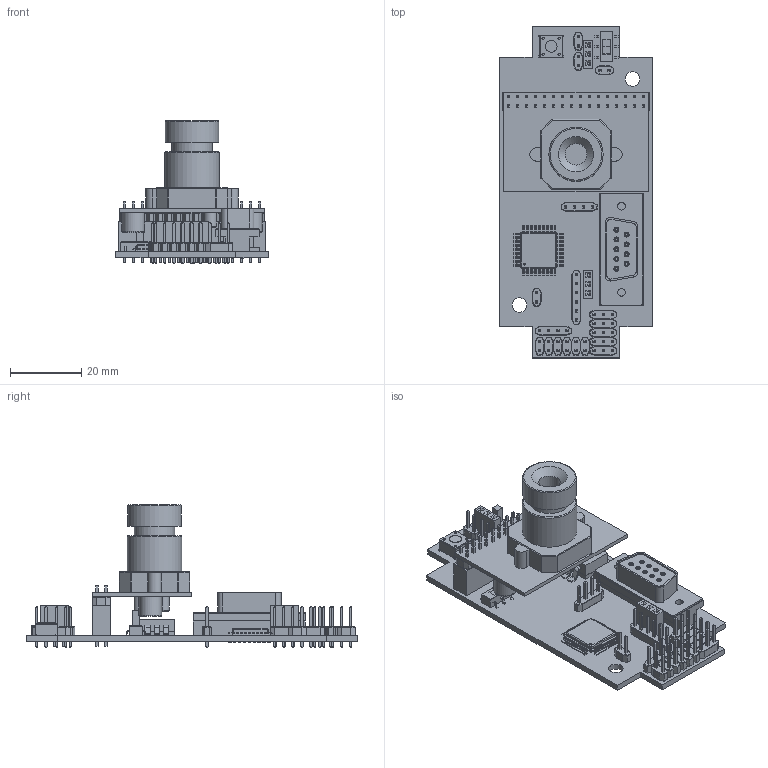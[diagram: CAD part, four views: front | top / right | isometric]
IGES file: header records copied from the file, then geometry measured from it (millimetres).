
Global section: file name: No Iges File Name specified; native system: AutoDesk Inventor R6.0; preprocessor: AutoDesk Inventor Iges Exporter R6.0; author: No Author specified; organization: No Organization specified; date: 20060104.220348; units: inch
Bounding box: 42.93 x 93.22 x 40.01 mm (x, y, z)
Surface area: 22073 mm2 (no closed solid volume)
Topology: 0 solids, 0 shells, 4090 faces, 18978 edges, 18904 vertices
Faces by surface type: plane 3620, revolution 358, bspline 112
